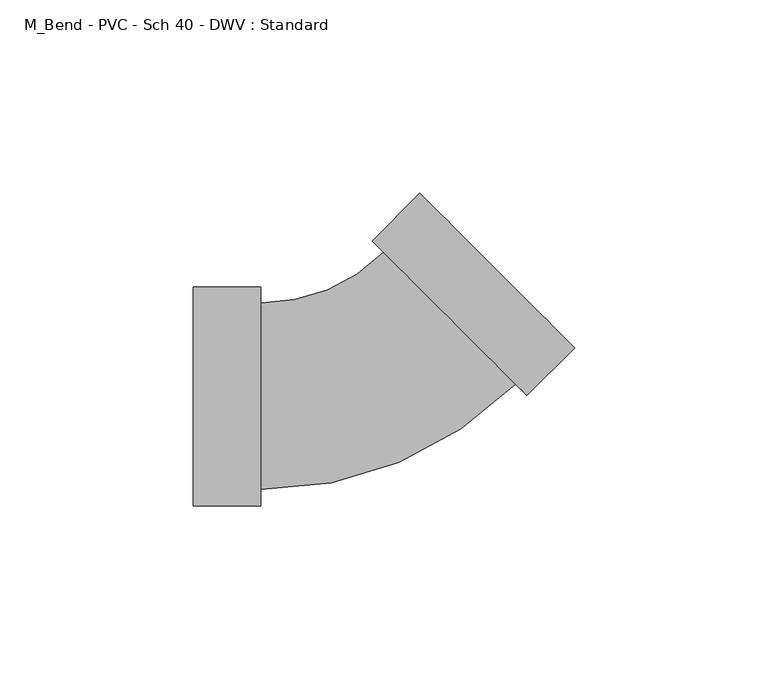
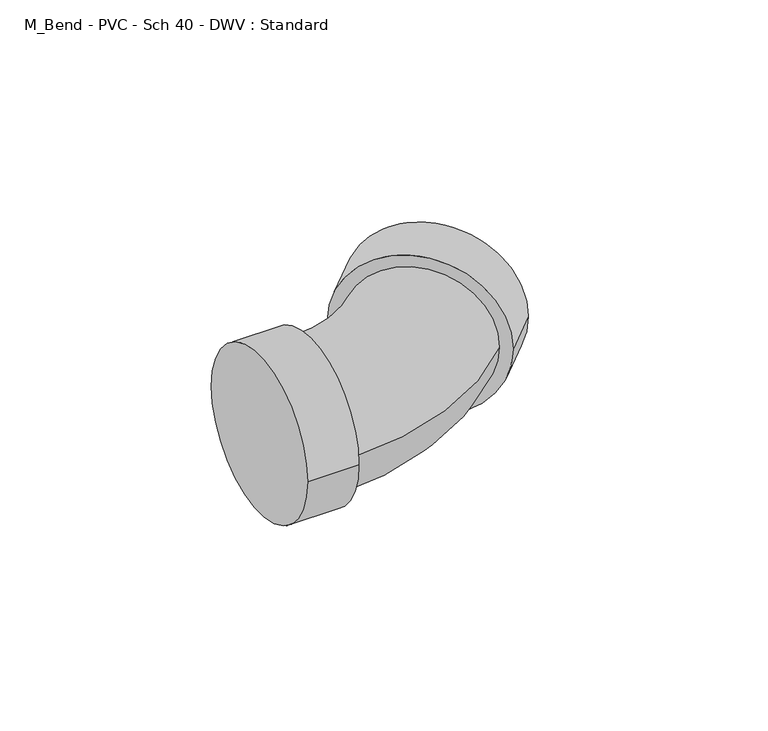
"""IFC4 building model written with IfcOpenShell, lengths in millimetres: pipe fitting geometry, M_Bend - PVC - Sch 40 - DWV : Standard."""

from ifc_helpers import new_model, si_unit, point, frame, origin, place, context, project, spatial, circle_curve, ellipse_curve, trimmed, source, transform, mapped, element, save
from ifc_brep_helpers import plane_surface, cylinder_surface, revolved_surface, advanced_brep


def m_bend_pvc_sch_40_dwv_standard_3e306cb9(model_context):
    return source(origin(), model_context, "Body", "AdvancedBrep", [
        advanced_brep(
        [(-46.0248, -28.2829, 0.0), (-46.0248, 28.2829, 0.0), (-28.575, -28.2829, 0.0), (-28.575, 28.2829, 0.0), (-28.575, -24.13, 0.0), (-28.575, 24.13, 0.0), (3.1437014, 37.2680113, 0.0), (37.2681145, 3.1424779, 0.0), (40.20461, 0.205886, 0.0), (0.2072058, 40.2046033, 0.0), (52.5436845, 12.5445553, 0.0), (12.5462803, 52.5432726, 0.0)],
        [
            (0, 1, circle_curve(frame((-46.0248, 0.0, 0.0), z_axis=(-1.0, 0.0, 0.0), x_axis=(0.0, 1.0, 0.0)), 28.2829)),
            (1, 0, circle_curve(frame((-46.0248, 0.0, 0.0), z_axis=(-1.0, 0.0, 0.0), x_axis=(0.0, 1.0, 0.0)), 28.2829)),
            (2, 3, circle_curve(frame((-28.575, 0.0, 0.0), z_axis=(1.0, 0.0, 0.0), x_axis=(0.0, 1.0, 0.0)), 28.2829)),
            (3, 2, circle_curve(frame((-28.575, 0.0, 0.0), z_axis=(1.0, 0.0, 0.0), x_axis=(0.0, 1.0, 0.0)), 28.2829)),
            (4, 5, circle_curve(frame((-28.575, 0.0, 0.0), z_axis=(-1.0, 0.0, 0.0), x_axis=(0.0, 1.0, 0.0)), 24.13)),
            (5, 4, circle_curve(frame((-28.575, 0.0, 0.0), z_axis=(-1.0, 0.0, 0.0), x_axis=(0.0, 1.0, 0.0)), 24.13)),
            (0, 2),
            (3, 1),
            (6, 5, circle_curve(frame((-28.575, 68.987754, 0.0), z_axis=(0.0, 0.0, -1.0), x_axis=(0.0, -1.0, 0.0)), 44.857754)),
            (4, 7, circle_curve(frame((-28.575, 68.987754, 0.0), z_axis=(0.0, 0.0, 1.0), x_axis=(0.0, -1.0, 0.0)), 93.117754)),
            (7, 6, circle_curve(frame((20.2059079, 20.2052446, 0.0), z_axis=(-0.7071183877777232, -0.7070951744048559, 0.0), x_axis=(-0.7070951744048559, 0.7071183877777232, 0.0)), 24.13)),
            (6, 7, circle_curve(frame((20.2059079, 20.2052446, 0.0), z_axis=(-0.7071183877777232, -0.7070951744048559, 0.0), x_axis=(-0.7070951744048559, 0.7071183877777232, 0.0)), 24.13)),
            (8, 9, circle_curve(frame((20.2059079, 20.2052446, 0.0), z_axis=(-0.7071183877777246, -0.7070951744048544, 0.0), x_axis=(-0.7070951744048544, 0.7071183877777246, 0.0)), 28.2829)),
            (9, 8, circle_curve(frame((20.2059079, 20.2052446, 0.0), z_axis=(-0.7071183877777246, -0.7070951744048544, 0.0), x_axis=(-0.7070951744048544, 0.7071183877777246, 0.0)), 28.2829)),
            (10, 11, circle_curve(frame((32.5449824, 32.543914, 0.0), z_axis=(0.7071183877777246, 0.7070951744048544, 0.0), x_axis=(-0.7070951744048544, 0.7071183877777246, 0.0)), 28.2829)),
            (11, 10, circle_curve(frame((32.5449824, 32.543914, 0.0), z_axis=(0.7071183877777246, 0.7070951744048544, 0.0), x_axis=(-0.7070951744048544, 0.7071183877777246, 0.0)), 28.2829)),
            (8, 10),
            (11, 9),
        ],
        [
            plane_surface(frame((-46.0248, 0.0, 0.0), z_axis=(-1.0, 0.0, 0.0), x_axis=(0.0, 0.0, 1.0))),
            plane_surface(frame((-28.575, 0.0, 0.0), z_axis=(1.0, 0.0, 0.0), x_axis=(0.0, 0.0, 1.0))),
            cylinder_surface(frame((-46.0248, 0.0, 0.0), z_axis=(-1.0, 0.0, 0.0), x_axis=(0.0, 1.0, 0.0)), 28.2829),
            revolved_surface(trimmed(ellipse_curve(frame((-28.575, 0.0, 0.0), z_axis=(-1.0, 0.0, 0.0), x_axis=(0.0, 1.0, 0.0)), 24.13, 24.13), [point((-28.575, -24.13, 0.0))], [point((-28.575, 24.13, 0.0))], True, "CARTESIAN"), (-28.575, 68.987754, 0.0), (0.0, 0.0, 1.0)),
            revolved_surface(trimmed(ellipse_curve(frame((-28.575, 0.0, 0.0), z_axis=(-1.0, 0.0, 0.0), x_axis=(0.0, 1.0, 0.0)), 24.13, 24.13), [point((-28.575, 24.13, 0.0))], [point((-28.575, -24.13, 0.0))], True, "CARTESIAN"), (-28.575, 68.987754, 0.0), (0.0, 0.0, 1.0)),
            plane_surface(frame((20.2059079, 20.2052446, 0.0), z_axis=(-0.7071183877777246, -0.7070951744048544, 0.0), x_axis=(0.0, 0.0, 1.0))),
            plane_surface(frame((32.5449824, 32.543914, 0.0), z_axis=(0.7071183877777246, 0.7070951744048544, 0.0), x_axis=(0.0, 0.0, 1.0))),
            cylinder_surface(frame((20.2059079, 20.2052446, 0.0), z_axis=(-0.7071183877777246, -0.7070951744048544, 0.0), x_axis=(-0.7070951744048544, 0.7071183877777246, 0.0)), 28.2829),
        ],
        [
            (0, [[1, 2]]),
            (1, [[3, 4], [5, 6]]),
            (2, [[-1, 7, -4, 8]]),
            (2, [[-2, -8, -3, -7]]),
            (3, [[9, -5, 10, 11]]),
            (4, [[-9, 12, -10, -6]]),
            (5, [[13, 14], [-11, -12]]),
            (6, [[15, 16]]),
            (7, [[-13, 17, -16, 18]]),
            (7, [[-14, -18, -15, -17]]),
        ],
    ),
    ])


if __name__ == "__main__":
    model = new_model("IFC4")
    model_context = context("Model", 3, world=origin())
    ifc_project = project(units=[si_unit("LENGTHUNIT", "METRE", prefix="MILLI")], contexts=[model_context])
    site = spatial("IfcSite", under=ifc_project)
    building = spatial("IfcBuilding", under=site)
    placement = place(None, origin())
    m_bend_pvc_sch_40_dwv_standard_shape = m_bend_pvc_sch_40_dwv_standard_3e306cb9(model_context)
    element("IfcPipeFitting", 1, ObjectType="M_Bend - PVC - Sch 40 - DWV : Standard", at=placement, inside=building, context=model_context, shape_type="MappedRepresentation", body=[
        mapped(m_bend_pvc_sch_40_dwv_standard_shape, transform((0.0, 0.0, 0.0), x_axis=(1.0, 0.0, 0.0), y_axis=(0.0, 1.0, 0.0), z_axis=(0.0, 0.0, 1.0))),
    ])
    save(model, "model.ifc")
